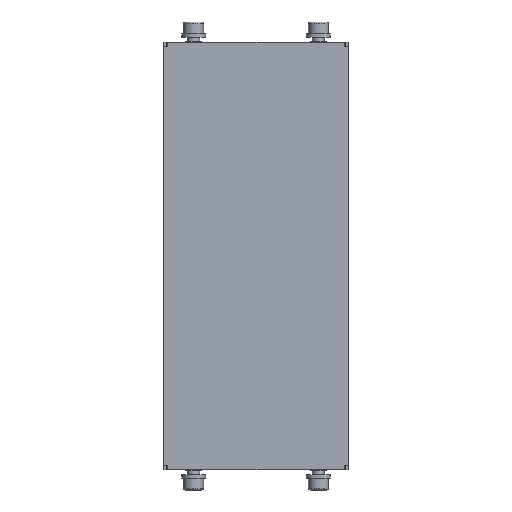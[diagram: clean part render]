
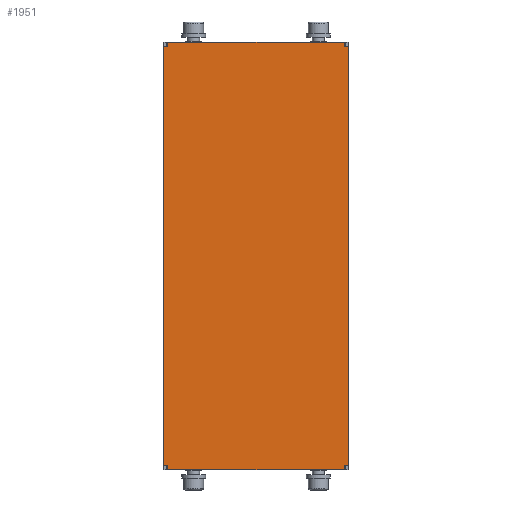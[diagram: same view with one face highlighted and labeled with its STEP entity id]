
A CAD part, front view. The second image highlights one B-rep face of the part: STEP entity #1951.
In plain terms, the highlighted planar face has unit normal (0, -1, 0).
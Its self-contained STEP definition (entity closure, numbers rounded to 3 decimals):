
#1951 = ADVANCED_FACE('',(#1952),#2050,.F.);
#1952 = FACE_BOUND('',#1953,.T.);
#1953 = EDGE_LOOP('',(#1954,#1964,#1972,#1980,#1988,#1996,#2004,#2012,
    #2020,#2028,#2036,#2044));
#1954 = ORIENTED_EDGE('',*,*,#1955,.F.);
#1955 = EDGE_CURVE('',#1956,#1958,#1960,.T.);
#1956 = VERTEX_POINT('',#1957);
#1957 = CARTESIAN_POINT('',(-44.15,-1.5,104.9));
#1958 = VERTEX_POINT('',#1959);
#1959 = CARTESIAN_POINT('',(-44.15,-1.5,107.));
#1960 = LINE('',#1961,#1962);
#1961 = CARTESIAN_POINT('',(-44.15,-1.5,107.));
#1962 = VECTOR('',#1963,1.);
#1963 = DIRECTION('',(-0.,-0.,1.));
#1964 = ORIENTED_EDGE('',*,*,#1965,.T.);
#1965 = EDGE_CURVE('',#1956,#1966,#1968,.T.);
#1966 = VERTEX_POINT('',#1967);
#1967 = CARTESIAN_POINT('',(-46.25,-1.5,104.9));
#1968 = LINE('',#1969,#1970);
#1969 = CARTESIAN_POINT('',(-44.15,-1.5,104.9));
#1970 = VECTOR('',#1971,1.);
#1971 = DIRECTION('',(-1.,0.,-0.));
#1972 = ORIENTED_EDGE('',*,*,#1973,.F.);
#1973 = EDGE_CURVE('',#1974,#1966,#1976,.T.);
#1974 = VERTEX_POINT('',#1975);
#1975 = CARTESIAN_POINT('',(-46.25,-1.5,-104.9));
#1976 = LINE('',#1977,#1978);
#1977 = CARTESIAN_POINT('',(-46.25,-1.5,107.));
#1978 = VECTOR('',#1979,1.);
#1979 = DIRECTION('',(-0.,-0.,1.));
#1980 = ORIENTED_EDGE('',*,*,#1981,.F.);
#1981 = EDGE_CURVE('',#1982,#1974,#1984,.T.);
#1982 = VERTEX_POINT('',#1983);
#1983 = CARTESIAN_POINT('',(-44.15,-1.5,-104.9));
#1984 = LINE('',#1985,#1986);
#1985 = CARTESIAN_POINT('',(-44.75,-1.5,-104.9));
#1986 = VECTOR('',#1987,1.);
#1987 = DIRECTION('',(-1.,0.,-0.));
#1988 = ORIENTED_EDGE('',*,*,#1989,.T.);
#1989 = EDGE_CURVE('',#1982,#1990,#1992,.T.);
#1990 = VERTEX_POINT('',#1991);
#1991 = CARTESIAN_POINT('',(-44.15,-1.5,-107.));
#1992 = LINE('',#1993,#1994);
#1993 = CARTESIAN_POINT('',(-44.15,-1.5,-104.9));
#1994 = VECTOR('',#1995,1.);
#1995 = DIRECTION('',(-0.,-0.,-1.));
#1996 = ORIENTED_EDGE('',*,*,#1997,.F.);
#1997 = EDGE_CURVE('',#1998,#1990,#2000,.T.);
#1998 = VERTEX_POINT('',#1999);
#1999 = CARTESIAN_POINT('',(44.15,-1.5,-107.));
#2000 = LINE('',#2001,#2002);
#2001 = CARTESIAN_POINT('',(-44.75,-1.5,-107.));
#2002 = VECTOR('',#2003,1.);
#2003 = DIRECTION('',(-1.,0.,0.));
#2004 = ORIENTED_EDGE('',*,*,#2005,.F.);
#2005 = EDGE_CURVE('',#2006,#1998,#2008,.T.);
#2006 = VERTEX_POINT('',#2007);
#2007 = CARTESIAN_POINT('',(44.15,-1.5,-104.9));
#2008 = LINE('',#2009,#2010);
#2009 = CARTESIAN_POINT('',(44.15,-1.5,107.));
#2010 = VECTOR('',#2011,1.);
#2011 = DIRECTION('',(-0.,-0.,-1.));
#2012 = ORIENTED_EDGE('',*,*,#2013,.T.);
#2013 = EDGE_CURVE('',#2006,#2014,#2016,.T.);
#2014 = VERTEX_POINT('',#2015);
#2015 = CARTESIAN_POINT('',(46.25,-1.5,-104.9));
#2016 = LINE('',#2017,#2018);
#2017 = CARTESIAN_POINT('',(44.15,-1.5,-104.9));
#2018 = VECTOR('',#2019,1.);
#2019 = DIRECTION('',(1.,0.,0.));
#2020 = ORIENTED_EDGE('',*,*,#2021,.T.);
#2021 = EDGE_CURVE('',#2014,#2022,#2024,.T.);
#2022 = VERTEX_POINT('',#2023);
#2023 = CARTESIAN_POINT('',(46.25,-1.5,104.9));
#2024 = LINE('',#2025,#2026);
#2025 = CARTESIAN_POINT('',(46.25,-1.5,107.));
#2026 = VECTOR('',#2027,1.);
#2027 = DIRECTION('',(-0.,-0.,1.));
#2028 = ORIENTED_EDGE('',*,*,#2029,.F.);
#2029 = EDGE_CURVE('',#2030,#2022,#2032,.T.);
#2030 = VERTEX_POINT('',#2031);
#2031 = CARTESIAN_POINT('',(44.15,-1.5,104.9));
#2032 = LINE('',#2033,#2034);
#2033 = CARTESIAN_POINT('',(-44.75,-1.5,104.9));
#2034 = VECTOR('',#2035,1.);
#2035 = DIRECTION('',(1.,0.,-0.));
#2036 = ORIENTED_EDGE('',*,*,#2037,.T.);
#2037 = EDGE_CURVE('',#2030,#2038,#2040,.T.);
#2038 = VERTEX_POINT('',#2039);
#2039 = CARTESIAN_POINT('',(44.15,-1.5,107.));
#2040 = LINE('',#2041,#2042);
#2041 = CARTESIAN_POINT('',(44.15,-1.5,104.9));
#2042 = VECTOR('',#2043,1.);
#2043 = DIRECTION('',(-0.,-0.,1.));
#2044 = ORIENTED_EDGE('',*,*,#2045,.F.);
#2045 = EDGE_CURVE('',#1958,#2038,#2046,.T.);
#2046 = LINE('',#2047,#2048);
#2047 = CARTESIAN_POINT('',(-44.75,-1.5,107.));
#2048 = VECTOR('',#2049,1.);
#2049 = DIRECTION('',(1.,0.,0.));
#2050 = PLANE('',#2051);
#2051 = AXIS2_PLACEMENT_3D('',#2052,#2053,#2054);
#2052 = CARTESIAN_POINT('',(-44.75,-1.5,107.));
#2053 = DIRECTION('',(0.,1.,0.));
#2054 = DIRECTION('',(-1.,0.,0.));
